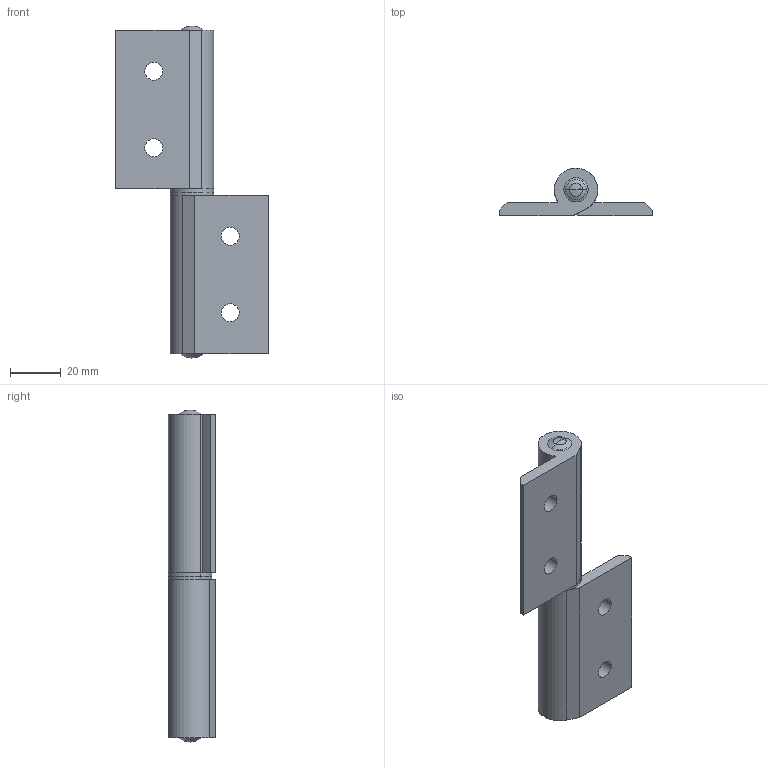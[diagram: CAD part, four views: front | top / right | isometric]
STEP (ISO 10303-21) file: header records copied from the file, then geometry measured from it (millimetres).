
FILE_DESCRIPTION(('STEP AP214'),'1');
FILE_NAME('C:\Parasolid\AHH-60127-6-L.stp','2013-11-11T23:54:40',(' '),(' '),'XStep 1.0',' ',' ');
FILE_SCHEMA(('automotive_design'));
Length unit declared in the file: millimetre
Products named in the file (7): Assembly94!翌拶凰1#翌拶凰1-2;翌拶凰1; Assembly94!翌拶凰1#翌拶凰1-5;翌拶凰1; Assembly94!翌拶凰1#翌拶凰1-4;翌拶凰1; Assembly94!翌拶凰1#翌拶凰1-3;翌拶凰1; Assembly94!翌拶凰1#翌拶凰1;翌拶凰1; Assembly94!翌拶凰1#翌拶凰1-1;翌拶凰1; Assembly94!翌拶凰1#翌拶凰1-6;翌拶凰1
Bounding box: 60 x 18.5 x 130.2 mm (x, y, z)
Volume: 43350.3 mm3; surface area: 21104.3 mm2
Topology: 7 solids, 7 shells, 66 faces, 150 edges, 96 vertices
Faces by surface type: cylinder 32, plane 24, cone 10
Entity records: 2574 total; most frequent: DIRECTION 366, CARTESIAN_POINT 315, ORIENTED_EDGE 292, AXIS2_PLACEMENT_3D 147, EDGE_CURVE 146, VERTEX_POINT 96, EDGE_LOOP 84, CIRCLE 74
